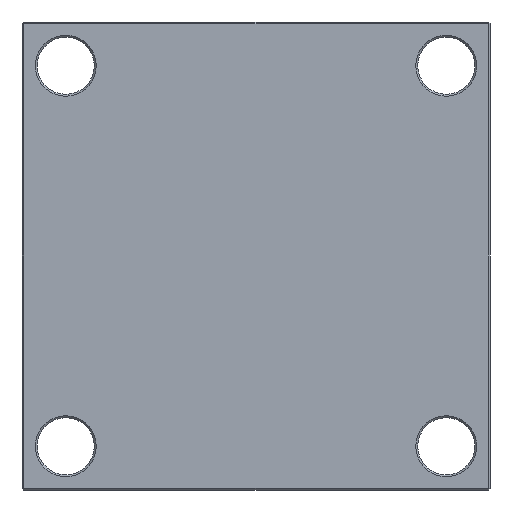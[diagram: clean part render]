
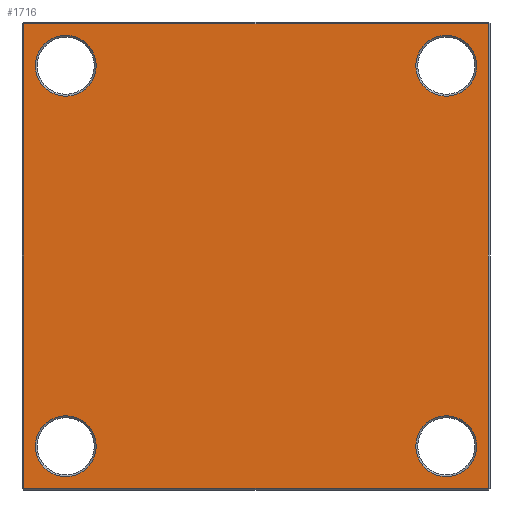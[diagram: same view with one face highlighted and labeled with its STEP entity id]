
A CAD part, front view. The second image highlights one B-rep face of the part: STEP entity #1716.
In plain terms, the highlighted planar face has unit normal (0, -1, 0).
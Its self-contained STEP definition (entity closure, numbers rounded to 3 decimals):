
#5 = DIRECTION ( 'NONE',  ( 0., 1., 0. ) ) ;
#15 = DIRECTION ( 'NONE',  ( 0., 0., 1. ) ) ;
#27 = CARTESIAN_POINT ( 'NONE',  ( 100., 0., 116. ) ) ;
#63 = DIRECTION ( 'NONE',  ( 0., 0., 1. ) ) ;
#84 = ORIENTED_EDGE ( 'NONE', *, *, #1164, .T. ) ;
#95 = AXIS2_PLACEMENT_3D ( 'NONE', #175, #184, #63 ) ;
#102 = CIRCLE ( 'NONE', #121, 16. ) ;
#119 = ORIENTED_EDGE ( 'NONE', *, *, #1550, .T. ) ;
#121 = AXIS2_PLACEMENT_3D ( 'NONE', #718, #725, #736 ) ;
#136 = CARTESIAN_POINT ( 'NONE',  ( 100., 0., -100. ) ) ;
#167 = ORIENTED_EDGE ( 'NONE', *, *, #1170, .T. ) ;
#175 = CARTESIAN_POINT ( 'NONE',  ( 100., 0., 100. ) ) ;
#182 = ORIENTED_EDGE ( 'NONE', *, *, #1105, .T. ) ;
#184 = DIRECTION ( 'NONE',  ( 0., 1., 0. ) ) ;
#191 = ORIENTED_EDGE ( 'NONE', *, *, #1147, .T. ) ;
#198 = ORIENTED_EDGE ( 'NONE', *, *, #1155, .T. ) ;
#208 = ORIENTED_EDGE ( 'NONE', *, *, #759, .T. ) ;
#244 = ORIENTED_EDGE ( 'NONE', *, *, #1462, .T. ) ;
#248 = VECTOR ( 'NONE', #1288, 1000. ) ;
#260 = AXIS2_PLACEMENT_3D ( 'NONE', #1197, #1254, #1259 ) ;
#264 = EDGE_LOOP ( 'NONE', ( #119, #1645 ) ) ;
#277 = AXIS2_PLACEMENT_3D ( 'NONE', #1020, #1028, #1041 ) ;
#299 = AXIS2_PLACEMENT_3D ( 'NONE', #553, #567, #583 ) ;
#300 = CIRCLE ( 'NONE', #277, 16. ) ;
#309 = VERTEX_POINT ( 'NONE', #2172 ) ;
#310 = AXIS2_PLACEMENT_3D ( 'NONE', #388, #411, #426 ) ;
#328 = VERTEX_POINT ( 'NONE', #2016 ) ;
#374 = CARTESIAN_POINT ( 'NONE',  ( -100., 0., 84. ) ) ;
#388 = CARTESIAN_POINT ( 'NONE',  ( -100., 0., -100. ) ) ;
#411 = DIRECTION ( 'NONE',  ( 0., 1., 0. ) ) ;
#426 = DIRECTION ( 'NONE',  ( 0., 0., 1. ) ) ;
#428 = ORIENTED_EDGE ( 'NONE', *, *, #1121, .T. ) ;
#466 = FACE_BOUND ( 'NONE', #1598, .T. ) ;
#471 = AXIS2_PLACEMENT_3D ( 'NONE', #136, #5, #15 ) ;
#484 = VERTEX_POINT ( 'NONE', #827 ) ;
#487 = ORIENTED_EDGE ( 'NONE', *, *, #1102, .T. ) ;
#553 = CARTESIAN_POINT ( 'NONE',  ( 100., 0., -100. ) ) ;
#559 = VERTEX_POINT ( 'NONE', #716 ) ;
#567 = DIRECTION ( 'NONE',  ( 0., 1., 0. ) ) ;
#583 = DIRECTION ( 'NONE',  ( 0., 0., 1. ) ) ;
#647 = AXIS2_PLACEMENT_3D ( 'NONE', #1232, #1222, #1207 ) ;
#716 = CARTESIAN_POINT ( 'NONE',  ( -100., 0., -84. ) ) ;
#718 = CARTESIAN_POINT ( 'NONE',  ( -100., 0., -100. ) ) ;
#725 = DIRECTION ( 'NONE',  ( 0., 1., 0. ) ) ;
#736 = DIRECTION ( 'NONE',  ( 0., 0., 1. ) ) ;
#744 = AXIS2_PLACEMENT_3D ( 'NONE', #1145, #1157, #1167 ) ;
#759 = EDGE_CURVE ( 'NONE', #1037, #1996, #1584, .T. ) ;
#771 = VERTEX_POINT ( 'NONE', #27 ) ;
#795 = EDGE_CURVE ( 'NONE', #1374, #559, #102, .T. ) ;
#824 = FACE_OUTER_BOUND ( 'NONE', #1855, .T. ) ;
#827 = CARTESIAN_POINT ( 'NONE',  ( 122., 0., 122. ) ) ;
#848 = VERTEX_POINT ( 'NONE', #2145 ) ;
#857 = CIRCLE ( 'NONE', #310, 16. ) ;
#907 = CIRCLE ( 'NONE', #299, 16. ) ;
#1020 = CARTESIAN_POINT ( 'NONE',  ( 100., 0., 100. ) ) ;
#1028 = DIRECTION ( 'NONE',  ( 0., 1., 0. ) ) ;
#1037 = VERTEX_POINT ( 'NONE', #1851 ) ;
#1040 = VERTEX_POINT ( 'NONE', #2107 ) ;
#1041 = DIRECTION ( 'NONE',  ( 0., 0., 1. ) ) ;
#1102 = EDGE_CURVE ( 'NONE', #559, #1374, #857, .T. ) ;
#1105 = EDGE_CURVE ( 'NONE', #1996, #1037, #907, .T. ) ;
#1112 = CARTESIAN_POINT ( 'NONE',  ( 0., 0., 122. ) ) ;
#1121 = EDGE_CURVE ( 'NONE', #771, #1857, #300, .T. ) ;
#1135 = EDGE_CURVE ( 'NONE', #328, #1773, #2035, .T. ) ;
#1142 = DIRECTION ( 'NONE',  ( 0., 0., 1. ) ) ;
#1145 = CARTESIAN_POINT ( 'NONE',  ( -100., 0., 100. ) ) ;
#1147 = EDGE_CURVE ( 'NONE', #848, #484, #2085, .T. ) ;
#1155 = EDGE_CURVE ( 'NONE', #484, #1040, #1709, .T. ) ;
#1157 = DIRECTION ( 'NONE',  ( 0., 1., 0. ) ) ;
#1164 = EDGE_CURVE ( 'NONE', #1040, #309, #1997, .T. ) ;
#1166 = LINE ( 'NONE', #1343, #1963 ) ;
#1167 = DIRECTION ( 'NONE',  ( 0., 0., 1. ) ) ;
#1170 = EDGE_CURVE ( 'NONE', #309, #848, #1166, .T. ) ;
#1191 = CARTESIAN_POINT ( 'NONE',  ( 122., 0., 0. ) ) ;
#1197 = CARTESIAN_POINT ( 'NONE',  ( -100., 0., 100. ) ) ;
#1206 = VECTOR ( 'NONE', #1142, 1000. ) ;
#1207 = DIRECTION ( 'NONE',  ( 0., 0., 1. ) ) ;
#1222 = DIRECTION ( 'NONE',  ( 0., 1., 0. ) ) ;
#1232 = CARTESIAN_POINT ( 'NONE',  ( 0., 0., 0. ) ) ;
#1254 = DIRECTION ( 'NONE',  ( 0., 1., 0. ) ) ;
#1259 = DIRECTION ( 'NONE',  ( 0., 0., 1. ) ) ;
#1275 = FACE_BOUND ( 'NONE', #1722, .T. ) ;
#1288 = DIRECTION ( 'NONE',  ( -1., 0., 0. ) ) ;
#1337 = CARTESIAN_POINT ( 'NONE',  ( 100., 0., 84. ) ) ;
#1343 = CARTESIAN_POINT ( 'NONE',  ( 0., 0., -122. ) ) ;
#1374 = VERTEX_POINT ( 'NONE', #1436 ) ;
#1400 = PLANE ( 'NONE',  #647 ) ;
#1410 = ORIENTED_EDGE ( 'NONE', *, *, #795, .T. ) ;
#1436 = CARTESIAN_POINT ( 'NONE',  ( -100., 0., -116. ) ) ;
#1440 = CARTESIAN_POINT ( 'NONE',  ( -122., 0., 0. ) ) ;
#1462 = EDGE_CURVE ( 'NONE', #1857, #771, #1958, .T. ) ;
#1464 = DIRECTION ( 'NONE',  ( 0., 0., -1. ) ) ;
#1482 = DIRECTION ( 'NONE',  ( 1., 0., 0. ) ) ;
#1550 = EDGE_CURVE ( 'NONE', #1773, #328, #2099, .T. ) ;
#1584 = CIRCLE ( 'NONE', #471, 16. ) ;
#1598 = EDGE_LOOP ( 'NONE', ( #244, #428 ) ) ;
#1608 = VECTOR ( 'NONE', #1464, 1000. ) ;
#1645 = ORIENTED_EDGE ( 'NONE', *, *, #1135, .T. ) ;
#1709 = LINE ( 'NONE', #1112, #248 ) ;
#1716 = ADVANCED_FACE ( 'NONE', ( #1275, #2140, #466, #1729, #824 ), #1400, .F. ) ;
#1722 = EDGE_LOOP ( 'NONE', ( #1410, #487 ) ) ;
#1729 = FACE_BOUND ( 'NONE', #264, .T. ) ;
#1773 = VERTEX_POINT ( 'NONE', #374 ) ;
#1847 = EDGE_LOOP ( 'NONE', ( #208, #182 ) ) ;
#1851 = CARTESIAN_POINT ( 'NONE',  ( 100., 0., -116. ) ) ;
#1855 = EDGE_LOOP ( 'NONE', ( #191, #198, #84, #167 ) ) ;
#1857 = VERTEX_POINT ( 'NONE', #1337 ) ;
#1958 = CIRCLE ( 'NONE', #95, 16. ) ;
#1963 = VECTOR ( 'NONE', #1482, 1000. ) ;
#1986 = CARTESIAN_POINT ( 'NONE',  ( 100., 0., -84. ) ) ;
#1996 = VERTEX_POINT ( 'NONE', #1986 ) ;
#1997 = LINE ( 'NONE', #1440, #1608 ) ;
#2016 = CARTESIAN_POINT ( 'NONE',  ( -100., 0., 116. ) ) ;
#2035 = CIRCLE ( 'NONE', #260, 16. ) ;
#2085 = LINE ( 'NONE', #1191, #1206 ) ;
#2099 = CIRCLE ( 'NONE', #744, 16. ) ;
#2107 = CARTESIAN_POINT ( 'NONE',  ( -122., 0., 122. ) ) ;
#2140 = FACE_BOUND ( 'NONE', #1847, .T. ) ;
#2145 = CARTESIAN_POINT ( 'NONE',  ( 122., 0., -122. ) ) ;
#2172 = CARTESIAN_POINT ( 'NONE',  ( -122., 0., -122. ) ) ;
